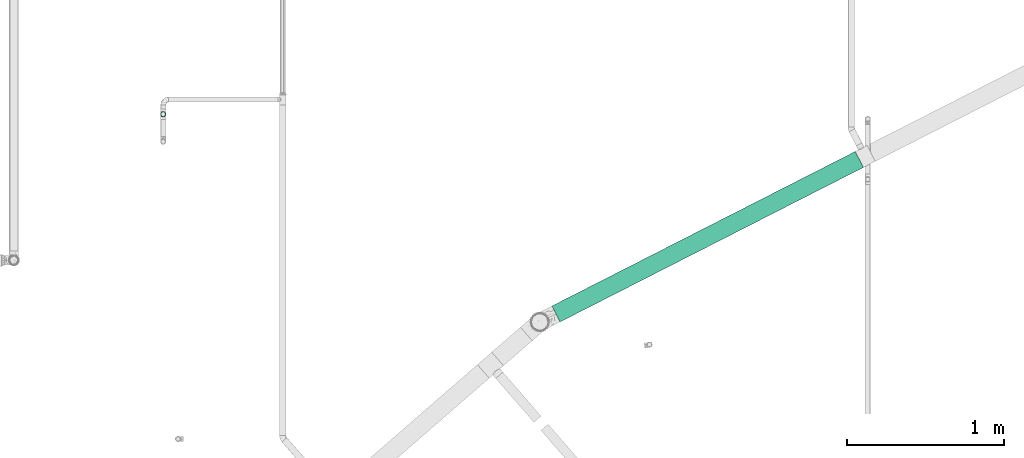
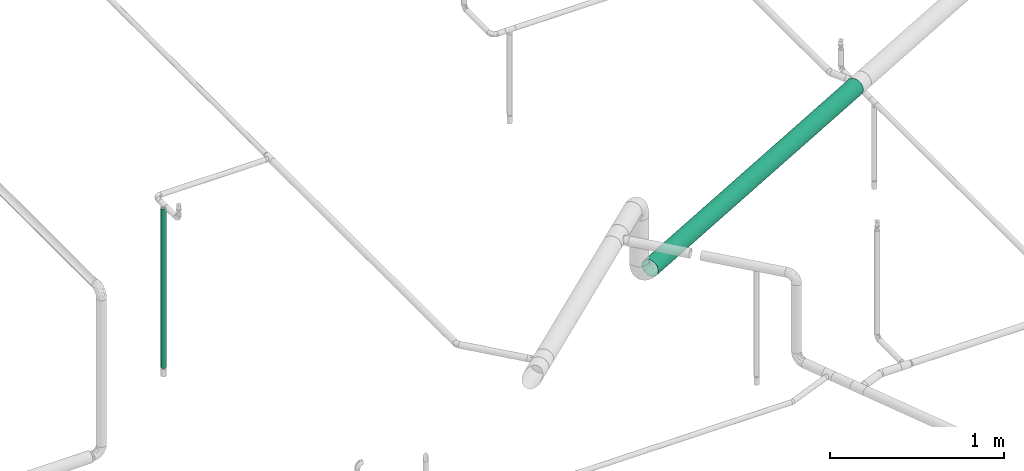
# One storey, part 4 of 94: 2 flow segments.
"""IFC2X3 building model written with IfcOpenShell, lengths in millimetres."""

from ifc_helpers import new_model, entity, si_unit, converted_unit, derived_unit, direction, frame, origin_with_axes, origin_2d_with_axis, place, context, subcontext, project, spatial, hollow_circle, extrude, source, transform, mapped, type_object, element, save


model = new_model("IFC2X3")

# Units and contexts
model_context = context("Model", 3, precision=0.01, world=frame((0.0, 4.29681676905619e-09, 0.0)), true_north=direction((4.01073788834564e-13, 1.0)))
plan_context = context("Plan", 3, precision=0.01, world=frame((0.0, 4.29681676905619e-09, 0.0)), true_north=direction((4.01073788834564e-13, 1.0)))
body_context = subcontext(model_context, "Body", "Model", "MODEL_VIEW")
ifc_project = project(units=[converted_unit("PLANEANGLEUNIT", "DEGREE", entity("IfcPositiveLengthMeasure", 0.0174532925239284), si_unit("PLANEANGLEUNIT", "RADIAN"), dimensions=[0, 0, 0, 0, 0, 0, 0]), si_unit("AREAUNIT", "SQUARE_METRE"), si_unit("LENGTHUNIT", "METRE", prefix="MILLI"), si_unit("MASSUNIT", "GRAM", prefix="KILO"), si_unit("POWERUNIT", "WATT"), si_unit("PRESSUREUNIT", "PASCAL", prefix="KILO"), si_unit("FORCEUNIT", "NEWTON", prefix="KILO"), si_unit("ELECTRICVOLTAGEUNIT", "VOLT"), si_unit("ELECTRICCURRENTUNIT", "AMPERE"), si_unit("THERMODYNAMICTEMPERATUREUNIT", "DEGREE_CELSIUS"), si_unit("TIMEUNIT", "SECOND"), si_unit("VOLUMEUNIT", "CUBIC_METRE"), derived_unit("LINEARVELOCITYUNIT", [(si_unit("LENGTHUNIT", "METRE"), 1), (si_unit("TIMEUNIT", "SECOND"), -1)]), derived_unit("VOLUMETRICFLOWRATEUNIT", [(si_unit("VOLUMEUNIT", "CUBIC_METRE"), 1), (si_unit("TIMEUNIT", "SECOND"), -1)]), derived_unit("THERMALTRANSMITTANCEUNIT", [(si_unit("POWERUNIT", "WATT"), 1), (si_unit("THERMODYNAMICTEMPERATUREUNIT", "KELVIN"), -1), (si_unit("AREAUNIT", "SQUARE_METRE"), -1)]), derived_unit("SOUNDPRESSUREUNIT", [(si_unit("PRESSUREUNIT", "PASCAL"), 1)])], contexts=[model_context, plan_context])

# Site, building, storey
site_placement = place(None, frame((0.0, -4.29681676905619e-09, 0.0), z_axis=(0.0, 0.0, 1.0), x_axis=(1.0, 0.0, 0.0)))
site = spatial("IfcSite", under=ifc_project, at=site_placement, CompositionType="ELEMENT")
building_placement = place(site_placement, frame((0.0, 4.29681676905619e-09, 0.0), z_axis=(0.0, 0.0, 1.0), x_axis=(1.0, 0.0, 0.0)))
building = spatial("IfcBuilding", under=site, at=building_placement, Name="mc-building", CompositionType="ELEMENT")
storey_placement = place(building_placement, frame((0.0, 0.0, 210900.0), z_axis=(0.0, 0.0, 1.0), x_axis=(1.0, 0.0, 0.0)))
storey = spatial("IfcBuildingStorey", under=building, at=storey_placement, Name="Nivå F", CompositionType="ELEMENT", Elevation=210900.0)

# Flow segments
pipe_segment_type = type_object("IfcPipeSegmentType", Name="Stålrør normaltykke", PredefinedType="RIGIDSEGMENT")
shared_shape_1 = source(origin_with_axes(), body_context, "Body", "SweptSolid", [
    extrude(hollow_circle(Radius=57.1, WallThickness=2.0, at=origin_2d_with_axis()), frame((0.0, 0.0, 0.0), z_axis=(1.0, 0.0, 0.0), x_axis=(0.0, 1.0, 0.0)), (0.0, 0.0, 1.0), 2166.7),
])
flow_segment_1_placement = place(storey_placement, frame((720335.06101, 443379.18206, 3650.0), z_axis=(0.0, 0.0, 1.0), x_axis=(-0.891006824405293, -0.453989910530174, 0.0)))
element("IfcFlowSegment", 1, at=flow_segment_1_placement, inside=storey, type_object=pipe_segment_type, Name="Stålrør normaltykke", context=body_context, shape_type="MappedRepresentation", body=[
    mapped(shared_shape_1, transform((0.0, 0.0, 0.0), scale=1.0)),
])
shared_shape_2 = source(origin_with_axes(), body_context, "Body", "SweptSolid", [
    extrude(hollow_circle(Radius=16.9, WallThickness=2.0, at=origin_2d_with_axis()), frame((0.0, 0.0, 0.0), z_axis=(1.0, 0.0, 0.0), x_axis=(0.0, 1.0, 0.0)), (0.0, 0.0, 1.0), 1115.3),
])
flow_segment_2_placement = place(storey_placement, frame((715905.60992, 443666.74027, 4174.64999999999), z_axis=(1.0, 0.0, 0.0), x_axis=(0.0, 0.0, -1.0)))
element("IfcFlowSegment", 2, at=flow_segment_2_placement, inside=storey, type_object=pipe_segment_type, Name="Stålrør normaltykke", context=body_context, shape_type="MappedRepresentation", body=[
    mapped(shared_shape_2, transform((0.0, 0.0, 0.0), scale=1.0)),
])

save(model, "model.ifc")
